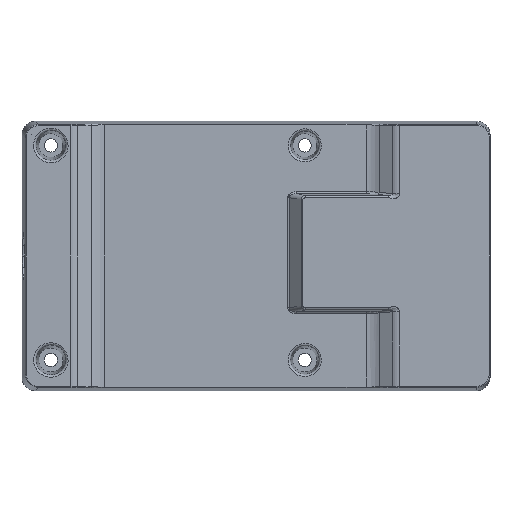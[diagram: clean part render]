
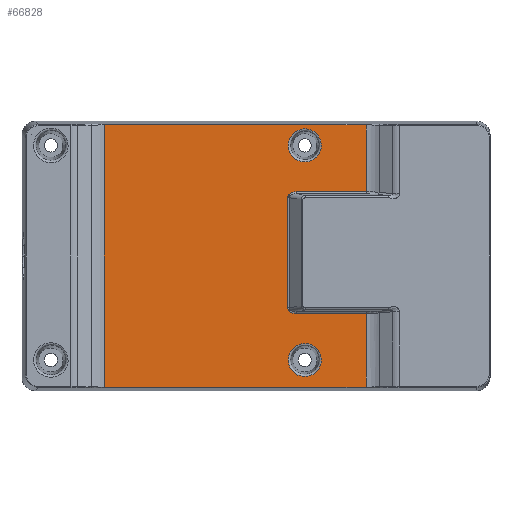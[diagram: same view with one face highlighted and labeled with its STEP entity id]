
A CAD part, front view. The second image highlights one B-rep face of the part: STEP entity #66828.
In plain terms, the highlighted planar face has unit normal (0, -1, 0).
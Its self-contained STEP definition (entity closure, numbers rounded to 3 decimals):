
#464=B_SPLINE_CURVE_WITH_KNOTS('',3,(#116380,#116381,#116382,#116383,#116384,
#116385,#116386,#116387,#116388,#116389),.UNSPECIFIED.,.F.,.F.,(4,1,1,1,
1,1,1,4),(0.,0.143,0.286,0.429,
0.571,0.714,0.857,1.),.UNSPECIFIED.);
#465=B_SPLINE_CURVE_WITH_KNOTS('',3,(#116392,#116393,#116394,#116395,#116396,
#116397,#116398,#116399,#116400,#116401,#116402),.UNSPECIFIED.,.F.,.F.,
(4,1,1,1,1,1,1,1,4),(0.,0.125,0.25,0.375,0.5,0.625,0.75,0.875,1.),
 .UNSPECIFIED.);
#1802=FACE_BOUND('',#11058,.T.);
#1803=FACE_BOUND('',#11059,.T.);
#3642=CIRCLE('',#72288,3.775);
#3643=CIRCLE('',#72289,3.775);
#7155=FACE_OUTER_BOUND('',#11057,.T.);
#11057=EDGE_LOOP('',(#60470,#60471,#60472,#60473,#60474,#60475,#60476,#60477,
#60478,#60479));
#11058=EDGE_LOOP('',(#60480));
#11059=EDGE_LOOP('',(#60481));
#18437=LINE('',#115390,#25802);
#18444=LINE('',#115863,#25809);
#18455=LINE('',#116369,#25820);
#18456=LINE('',#116373,#25821);
#18457=LINE('',#116374,#25822);
#18458=LINE('',#116376,#25823);
#18459=LINE('',#116378,#25824);
#18460=LINE('',#116391,#25825);
#25802=VECTOR('',#90243,59.788);
#25809=VECTOR('',#90294,59.788);
#25820=VECTOR('',#90341,59.863);
#25821=VECTOR('',#90344,15.999);
#25822=VECTOR('',#90345,15.262);
#25823=VECTOR('',#90346,16.762);
#25824=VECTOR('',#90347,15.999);
#25825=VECTOR('',#90348,25.167);
#32101=VERTEX_POINT('',#115385);
#32102=VERTEX_POINT('',#115389);
#32113=VERTEX_POINT('',#115858);
#32114=VERTEX_POINT('',#115862);
#32129=VERTEX_POINT('',#116371);
#32130=VERTEX_POINT('',#116372);
#32131=VERTEX_POINT('',#116375);
#32132=VERTEX_POINT('',#116377);
#32133=VERTEX_POINT('',#116379);
#32134=VERTEX_POINT('',#116390);
#32135=VERTEX_POINT('',#116403);
#32136=VERTEX_POINT('',#116405);
#41564=EDGE_CURVE('',#32101,#32102,#18437,.T.);
#41589=EDGE_CURVE('',#32113,#32114,#18444,.T.);
#41614=EDGE_CURVE('',#32113,#32102,#18455,.T.);
#41615=EDGE_CURVE('',#32129,#32130,#18456,.T.);
#41616=EDGE_CURVE('',#32114,#32129,#18457,.T.);
#41617=EDGE_CURVE('',#32131,#32101,#18458,.T.);
#41618=EDGE_CURVE('',#32132,#32131,#18459,.T.);
#41619=EDGE_CURVE('',#32133,#32132,#464,.T.);
#41620=EDGE_CURVE('',#32134,#32133,#18460,.T.);
#41621=EDGE_CURVE('',#32130,#32134,#465,.T.);
#41622=EDGE_CURVE('',#32135,#32135,#3642,.T.);
#41623=EDGE_CURVE('',#32136,#32136,#3643,.T.);
#60470=ORIENTED_EDGE('',*,*,#41615,.F.);
#60471=ORIENTED_EDGE('',*,*,#41616,.F.);
#60472=ORIENTED_EDGE('',*,*,#41589,.F.);
#60473=ORIENTED_EDGE('',*,*,#41614,.T.);
#60474=ORIENTED_EDGE('',*,*,#41564,.F.);
#60475=ORIENTED_EDGE('',*,*,#41617,.F.);
#60476=ORIENTED_EDGE('',*,*,#41618,.F.);
#60477=ORIENTED_EDGE('',*,*,#41619,.F.);
#60478=ORIENTED_EDGE('',*,*,#41620,.F.);
#60479=ORIENTED_EDGE('',*,*,#41621,.F.);
#60480=ORIENTED_EDGE('',*,*,#41622,.T.);
#60481=ORIENTED_EDGE('',*,*,#41623,.T.);
#63330=PLANE('',#72287);
#66828=ADVANCED_FACE('',(#7155,#1802,#1803),#63330,.F.);
#72287=AXIS2_PLACEMENT_3D('',#116370,#90342,#90343);
#72288=AXIS2_PLACEMENT_3D('',#116404,#90349,#90350);
#72289=AXIS2_PLACEMENT_3D('',#116406,#90351,#90352);
#90243=DIRECTION('',(-1.,0.,0.));
#90294=DIRECTION('',(1.,0.,0.));
#90341=DIRECTION('',(0.,0.,-1.));
#90342=DIRECTION('center_axis',(0.,1.,0.));
#90343=DIRECTION('ref_axis',(-1.,0.,0.));
#90344=DIRECTION('',(-1.,0.,0.));
#90345=DIRECTION('',(0.,0.,-1.));
#90346=DIRECTION('',(0.,0.,-1.));
#90347=DIRECTION('',(1.,0.,0.));
#90348=DIRECTION('',(0.,0.,-1.));
#90349=DIRECTION('center_axis',(0.,1.,0.));
#90350=DIRECTION('ref_axis',(-1.,0.,0.));
#90351=DIRECTION('center_axis',(0.,1.,0.));
#90352=DIRECTION('ref_axis',(-1.,0.,0.));
#115385=CARTESIAN_POINT('',(-89.478,1.5,-116.353));
#115389=CARTESIAN_POINT('',(-149.267,1.5,-116.353));
#115390=CARTESIAN_POINT('',(-89.478,1.5,-116.353));
#115858=CARTESIAN_POINT('',(-149.267,1.5,-56.491));
#115862=CARTESIAN_POINT('',(-89.478,1.5,-56.491));
#115863=CARTESIAN_POINT('',(-149.267,1.5,-56.491));
#116369=CARTESIAN_POINT('',(-149.267,1.5,-56.491));
#116370=CARTESIAN_POINT('Origin',(-87.871,1.5,-55.672));
#116371=CARTESIAN_POINT('',(-89.478,1.5,-71.752));
#116372=CARTESIAN_POINT('',(-105.477,1.5,-71.752));
#116373=CARTESIAN_POINT('',(-89.478,1.5,-71.752));
#116374=CARTESIAN_POINT('',(-89.478,1.5,-56.491));
#116375=CARTESIAN_POINT('',(-89.478,1.5,-99.591));
#116376=CARTESIAN_POINT('',(-89.478,1.5,-99.591));
#116377=CARTESIAN_POINT('',(-105.477,1.5,-99.591));
#116378=CARTESIAN_POINT('',(-105.477,1.5,-99.591));
#116379=CARTESIAN_POINT('',(-107.338,1.5,-98.255));
#116380=CARTESIAN_POINT('Ctrl Pts',(-107.338,1.5,
-98.255));
#116381=CARTESIAN_POINT('Ctrl Pts',(-107.338,1.5,
-98.366));
#116382=CARTESIAN_POINT('Ctrl Pts',(-107.305,1.5,
-98.583));
#116383=CARTESIAN_POINT('Ctrl Pts',(-107.143,1.5,-98.908));
#116384=CARTESIAN_POINT('Ctrl Pts',(-106.849,1.5,-99.199));
#116385=CARTESIAN_POINT('Ctrl Pts',(-106.521,1.5,-99.386));
#116386=CARTESIAN_POINT('Ctrl Pts',(-106.208,1.5,-99.5));
#116387=CARTESIAN_POINT('Ctrl Pts',(-105.87,1.5,-99.572));
#116388=CARTESIAN_POINT('Ctrl Pts',(-105.613,1.5,-99.591));
#116389=CARTESIAN_POINT('Ctrl Pts',(-105.477,1.5,-99.591));
#116390=CARTESIAN_POINT('',(-107.338,1.5,-73.088));
#116391=CARTESIAN_POINT('',(-107.338,1.5,-73.088));
#116392=CARTESIAN_POINT('Ctrl Pts',(-105.477,1.5,-71.752));
#116393=CARTESIAN_POINT('Ctrl Pts',(-105.559,1.5,-71.752));
#116394=CARTESIAN_POINT('Ctrl Pts',(-105.736,1.5,-71.759));
#116395=CARTESIAN_POINT('Ctrl Pts',(-106.053,1.5,-71.805));
#116396=CARTESIAN_POINT('Ctrl Pts',(-106.388,1.5,-71.901));
#116397=CARTESIAN_POINT('Ctrl Pts',(-106.725,1.5,-72.064));
#116398=CARTESIAN_POINT('Ctrl Pts',(-106.992,1.5,-72.275));
#116399=CARTESIAN_POINT('Ctrl Pts',(-107.187,1.5,-72.516));
#116400=CARTESIAN_POINT('Ctrl Pts',(-107.314,1.5,-72.803));
#116401=CARTESIAN_POINT('Ctrl Pts',(-107.338,1.5,-72.992));
#116402=CARTESIAN_POINT('Ctrl Pts',(-107.338,1.5,-73.088));
#116403=CARTESIAN_POINT('',(-99.713,1.5,-60.811));
#116404=CARTESIAN_POINT('Origin',(-103.471,1.5,-61.172));
#116405=CARTESIAN_POINT('',(-99.713,1.5,-109.811));
#116406=CARTESIAN_POINT('Origin',(-103.471,1.5,-110.172));
